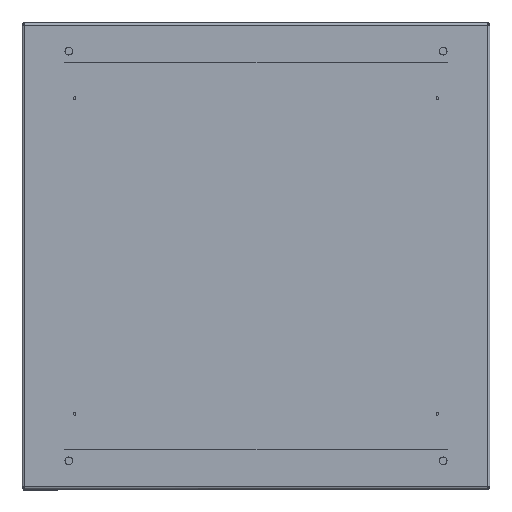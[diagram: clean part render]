
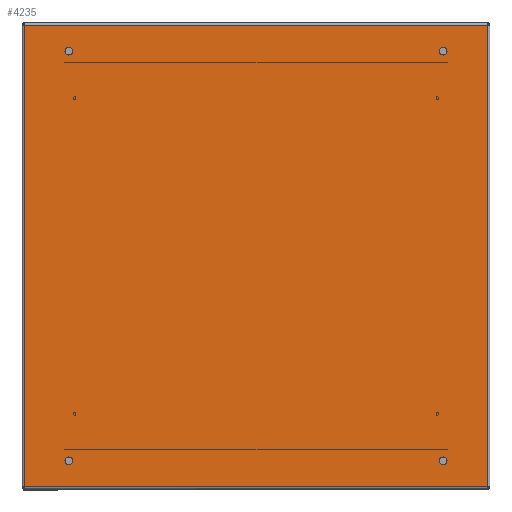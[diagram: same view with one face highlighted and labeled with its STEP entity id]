
A CAD part, front view. The second image highlights one B-rep face of the part: STEP entity #4235.
In plain terms, the highlighted planar face has unit normal (0, -1, 0).
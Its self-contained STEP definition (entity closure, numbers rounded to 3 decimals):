
#61 = CARTESIAN_POINT ( 'NONE',  ( 160., 0., 175. ) ) ;
#68 = DIRECTION ( 'NONE',  ( 0., 1., 0. ) ) ;
#293 = CIRCLE ( 'NONE', #7627, 3.25 ) ;
#429 = DIRECTION ( 'NONE',  ( 1., 0., 0. ) ) ;
#478 = EDGE_CURVE ( 'NONE', #4870, #7273, #6520, .T. ) ;
#479 = LINE ( 'NONE', #10386, #4188 ) ;
#845 = EDGE_LOOP ( 'NONE', ( #7564, #9615 ) ) ;
#1111 = EDGE_LOOP ( 'NONE', ( #8317, #1235 ) ) ;
#1206 = DIRECTION ( 'NONE',  ( 0., 1., 0. ) ) ;
#1235 = ORIENTED_EDGE ( 'NONE', *, *, #5607, .T. ) ;
#1245 = CIRCLE ( 'NONE', #4344, 3.25 ) ;
#1386 = DIRECTION ( 'NONE',  ( 0., 0., 1. ) ) ;
#1531 = AXIS2_PLACEMENT_3D ( 'NONE', #4314, #2689, #7545 ) ;
#1645 = EDGE_LOOP ( 'NONE', ( #4548, #2623 ) ) ;
#1682 = CARTESIAN_POINT ( 'NONE',  ( -198., 0., 197.2 ) ) ;
#1777 = DIRECTION ( 'NONE',  ( 0., 1., 0. ) ) ;
#1819 = VERTEX_POINT ( 'NONE', #3683 ) ;
#2051 = DIRECTION ( 'NONE',  ( 0., -1., 0. ) ) ;
#2105 = CIRCLE ( 'NONE', #4827, 3.25 ) ;
#2474 = VERTEX_POINT ( 'NONE', #5415 ) ;
#2537 = EDGE_CURVE ( 'NONE', #10065, #7273, #3881, .T. ) ;
#2564 = DIRECTION ( 'NONE',  ( 1., 0., 0. ) ) ;
#2623 = ORIENTED_EDGE ( 'NONE', *, *, #6257, .T. ) ;
#2635 = DIRECTION ( 'NONE',  ( 0., 0., 1. ) ) ;
#2689 = DIRECTION ( 'NONE',  ( 0., 1., 0. ) ) ;
#2783 = VERTEX_POINT ( 'NONE', #6810 ) ;
#2785 = DIRECTION ( 'NONE',  ( 1., 0., 0. ) ) ;
#2860 = CARTESIAN_POINT ( 'NONE',  ( 198., 0., -197.2 ) ) ;
#2913 = VERTEX_POINT ( 'NONE', #8752 ) ;
#3275 = EDGE_CURVE ( 'NONE', #4686, #8868, #4612, .T. ) ;
#3345 = EDGE_CURVE ( 'NONE', #2913, #2783, #5500, .T. ) ;
#3438 = FACE_OUTER_BOUND ( 'NONE', #5522, .T. ) ;
#3513 = VERTEX_POINT ( 'NONE', #8115 ) ;
#3609 = DIRECTION ( 'NONE',  ( -1., 0., 0. ) ) ;
#3624 = DIRECTION ( 'NONE',  ( -1., 0., 0. ) ) ;
#3683 = CARTESIAN_POINT ( 'NONE',  ( 198., 0., -197.2 ) ) ;
#3689 = FACE_BOUND ( 'NONE', #1111, .T. ) ;
#3813 = FACE_BOUND ( 'NONE', #845, .T. ) ;
#3832 = CARTESIAN_POINT ( 'NONE',  ( 160., 0., -175. ) ) ;
#3871 = AXIS2_PLACEMENT_3D ( 'NONE', #7301, #8921, #4749 ) ;
#3881 = LINE ( 'NONE', #6263, #9608 ) ;
#3892 = CIRCLE ( 'NONE', #9172, 3.25 ) ;
#4188 = VECTOR ( 'NONE', #429, 1000. ) ;
#4235 = ADVANCED_FACE ( 'NONE', ( #3438, #3689, #3813, #6007, #5091 ), #8061, .T. ) ;
#4262 = DIRECTION ( 'NONE',  ( -1., 0., 0. ) ) ;
#4283 = ORIENTED_EDGE ( 'NONE', *, *, #8914, .T. ) ;
#4314 = CARTESIAN_POINT ( 'NONE',  ( -160., 0., 175. ) ) ;
#4344 = AXIS2_PLACEMENT_3D ( 'NONE', #7640, #1777, #2564 ) ;
#4371 = CARTESIAN_POINT ( 'NONE',  ( -156.75, 0., -175. ) ) ;
#4480 = LINE ( 'NONE', #2860, #6817 ) ;
#4508 = CIRCLE ( 'NONE', #7038, 3.25 ) ;
#4548 = ORIENTED_EDGE ( 'NONE', *, *, #3345, .T. ) ;
#4612 = CIRCLE ( 'NONE', #1531, 3.25 ) ;
#4686 = VERTEX_POINT ( 'NONE', #7008 ) ;
#4749 = DIRECTION ( 'NONE',  ( 1., 0., 0. ) ) ;
#4827 = AXIS2_PLACEMENT_3D ( 'NONE', #3832, #7010, #10350 ) ;
#4870 = VERTEX_POINT ( 'NONE', #6384 ) ;
#4964 = ORIENTED_EDGE ( 'NONE', *, *, #6477, .T. ) ;
#5015 = EDGE_CURVE ( 'NONE', #8868, #4686, #7825, .T. ) ;
#5039 = DIRECTION ( 'NONE',  ( 0., 1., 0. ) ) ;
#5091 = FACE_BOUND ( 'NONE', #1645, .T. ) ;
#5100 = EDGE_LOOP ( 'NONE', ( #4964, #7772 ) ) ;
#5175 = DIRECTION ( 'NONE',  ( 0., 1., 0. ) ) ;
#5326 = CARTESIAN_POINT ( 'NONE',  ( -163.25, 0., 175. ) ) ;
#5415 = CARTESIAN_POINT ( 'NONE',  ( 156.75, 0., 175. ) ) ;
#5500 = CIRCLE ( 'NONE', #5763, 3.25 ) ;
#5512 = ORIENTED_EDGE ( 'NONE', *, *, #478, .T. ) ;
#5522 = EDGE_LOOP ( 'NONE', ( #4283, #6633, #5512, #7354 ) ) ;
#5607 = EDGE_CURVE ( 'NONE', #3513, #9480, #1245, .T. ) ;
#5763 = AXIS2_PLACEMENT_3D ( 'NONE', #6758, #68, #5799 ) ;
#5799 = DIRECTION ( 'NONE',  ( -1., 0., 0. ) ) ;
#5943 = CARTESIAN_POINT ( 'NONE',  ( 198., 0., 197.2 ) ) ;
#6007 = FACE_BOUND ( 'NONE', #5100, .T. ) ;
#6009 = VECTOR ( 'NONE', #4262, 1000. ) ;
#6024 = CARTESIAN_POINT ( 'NONE',  ( 160., 0., 175. ) ) ;
#6257 = EDGE_CURVE ( 'NONE', #2783, #2913, #2105, .T. ) ;
#6263 = CARTESIAN_POINT ( 'NONE',  ( -198., 0., -197.2 ) ) ;
#6384 = CARTESIAN_POINT ( 'NONE',  ( 198., 0., 197.2 ) ) ;
#6477 = EDGE_CURVE ( 'NONE', #2474, #7844, #3892, .T. ) ;
#6520 = LINE ( 'NONE', #5943, #6009 ) ;
#6633 = ORIENTED_EDGE ( 'NONE', *, *, #7980, .T. ) ;
#6642 = DIRECTION ( 'NONE',  ( -1., 0., 0. ) ) ;
#6758 = CARTESIAN_POINT ( 'NONE',  ( 160., 0., -175. ) ) ;
#6810 = CARTESIAN_POINT ( 'NONE',  ( 163.25, 0., -175. ) ) ;
#6817 = VECTOR ( 'NONE', #2635, 1000. ) ;
#7008 = CARTESIAN_POINT ( 'NONE',  ( -156.75, 0., 175. ) ) ;
#7010 = DIRECTION ( 'NONE',  ( 0., 1., 0. ) ) ;
#7038 = AXIS2_PLACEMENT_3D ( 'NONE', #6024, #1206, #3609 ) ;
#7273 = VERTEX_POINT ( 'NONE', #1682 ) ;
#7301 = CARTESIAN_POINT ( 'NONE',  ( -160., 0., 175. ) ) ;
#7354 = ORIENTED_EDGE ( 'NONE', *, *, #2537, .F. ) ;
#7545 = DIRECTION ( 'NONE',  ( 1., 0., 0. ) ) ;
#7564 = ORIENTED_EDGE ( 'NONE', *, *, #3275, .T. ) ;
#7627 = AXIS2_PLACEMENT_3D ( 'NONE', #7794, #5175, #2785 ) ;
#7640 = CARTESIAN_POINT ( 'NONE',  ( -160., 0., -175. ) ) ;
#7772 = ORIENTED_EDGE ( 'NONE', *, *, #10571, .T. ) ;
#7794 = CARTESIAN_POINT ( 'NONE',  ( -160., 0., -175. ) ) ;
#7825 = CIRCLE ( 'NONE', #3871, 3.25 ) ;
#7844 = VERTEX_POINT ( 'NONE', #9926 ) ;
#7980 = EDGE_CURVE ( 'NONE', #1819, #4870, #4480, .T. ) ;
#8061 = PLANE ( 'NONE',  #9505 ) ;
#8115 = CARTESIAN_POINT ( 'NONE',  ( -163.25, 0., -175. ) ) ;
#8317 = ORIENTED_EDGE ( 'NONE', *, *, #10612, .T. ) ;
#8752 = CARTESIAN_POINT ( 'NONE',  ( 156.75, 0., -175. ) ) ;
#8868 = VERTEX_POINT ( 'NONE', #5326 ) ;
#8914 = EDGE_CURVE ( 'NONE', #10065, #1819, #479, .T. ) ;
#8921 = DIRECTION ( 'NONE',  ( 0., 1., 0. ) ) ;
#9172 = AXIS2_PLACEMENT_3D ( 'NONE', #61, #5039, #6642 ) ;
#9480 = VERTEX_POINT ( 'NONE', #4371 ) ;
#9505 = AXIS2_PLACEMENT_3D ( 'NONE', #10519, #2051, #3624 ) ;
#9608 = VECTOR ( 'NONE', #1386, 1000. ) ;
#9615 = ORIENTED_EDGE ( 'NONE', *, *, #5015, .T. ) ;
#9926 = CARTESIAN_POINT ( 'NONE',  ( 163.25, 0., 175. ) ) ;
#10065 = VERTEX_POINT ( 'NONE', #10383 ) ;
#10350 = DIRECTION ( 'NONE',  ( -1., 0., 0. ) ) ;
#10383 = CARTESIAN_POINT ( 'NONE',  ( -198., 0., -197.2 ) ) ;
#10386 = CARTESIAN_POINT ( 'NONE',  ( -198., 0., -197.2 ) ) ;
#10519 = CARTESIAN_POINT ( 'NONE',  ( -198., 0., -199.2 ) ) ;
#10571 = EDGE_CURVE ( 'NONE', #7844, #2474, #4508, .T. ) ;
#10612 = EDGE_CURVE ( 'NONE', #9480, #3513, #293, .T. ) ;
